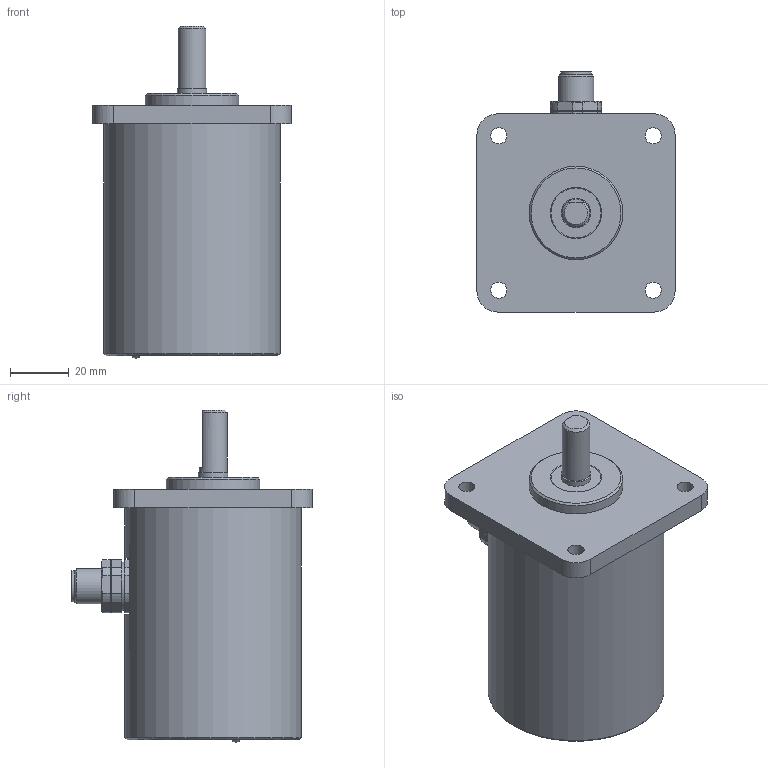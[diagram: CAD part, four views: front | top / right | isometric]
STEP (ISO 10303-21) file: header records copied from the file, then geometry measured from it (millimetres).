
FILE_DESCRIPTION(/* description */ ('Alibre Inc.'),/* implementation_level */ '2;1');
FILE_NAME(/* name */ 'export0',/* time_stamp */ '2016-10-21T14:12:37-04:00',/* author */ (''),/* organization */ (''),/* preprocessor_version */ 'ST-DEVELOPER v14',/* originating_system */ 'Alibre',/* authorisation */ '');
FILE_SCHEMA (('CONFIG_CONTROL_DESIGN'));
Length unit declared in the file: centimetre
Products named in the file (1): ID_1
Bounding box: 67.31 x 81.61 x 112.77 mm (x, y, z)
Volume: 167153.4 mm3; surface area: 46090.3 mm2
Topology: 3 solids, 45 shells, 290 faces, 499 edges, 330 vertices
Faces by surface type: plane 154, cylinder 107, cone 25, bspline 3, torus 1
Full cylindrical faces by diameter (mm): 1.4 x8, 2.87 x2, 3 x37, 5.5 x4, 8.3 x1, 9.5 x1, 9.9 x2, 10 x3, 10.5 x1, 11.8 x1, 12 x1, 13.5 x2, 14 x1, 15.2 x1, 16.5 x1, 17 x1, 20 x1, 26 x1, 31.75 x1, 40 x1, 46 x1, 55.8 x1, 60 x1
Entity records: 6187 total; most frequent: CARTESIAN_POINT 1141, DIRECTION 1000, ORIENTED_EDGE 772, AXIS2_PLACEMENT_3D 500, EDGE_LOOP 432, FACE_BOUND 432, EDGE_CURVE 386, VERTEX_POINT 312
